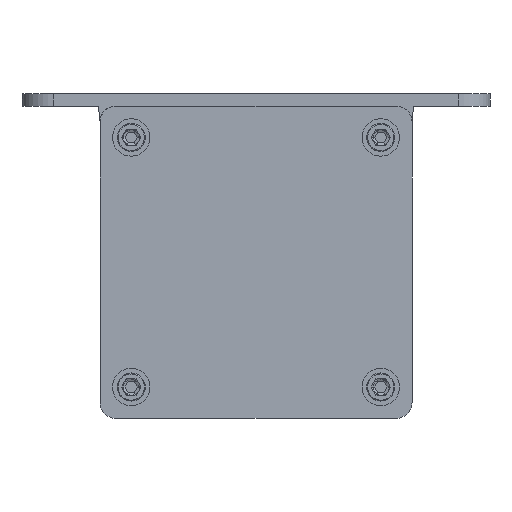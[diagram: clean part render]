
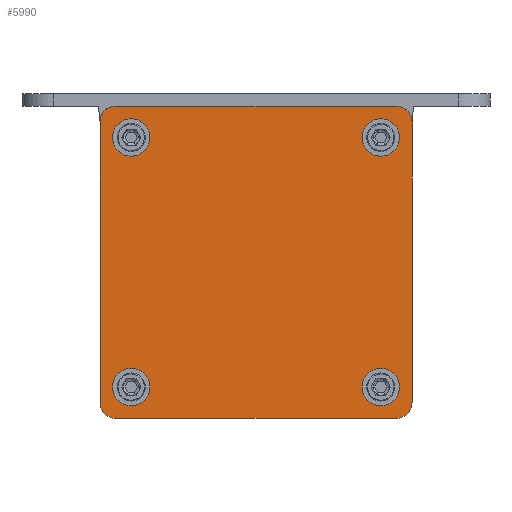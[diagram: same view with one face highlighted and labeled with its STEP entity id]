
A CAD part, front view. The second image highlights one B-rep face of the part: STEP entity #5990.
In plain terms, the highlighted planar face has unit normal (0, -1, 0).
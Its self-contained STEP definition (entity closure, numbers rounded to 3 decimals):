
#2125=CARTESIAN_POINT('',(-45.,-375.5,-45.));
#2126=DIRECTION('',(0.,-1.,0.));
#2127=DIRECTION('',(-1.,0.,0.));
#2128=AXIS2_PLACEMENT_3D('',#2125,#2126,#2127);
#2130=DIRECTION('',(0.,0.,-1.));
#2131=VECTOR('',#2130,90.);
#2132=CARTESIAN_POINT('',(-50.,-375.5,45.));
#2133=LINE('',#2132,#2131);
#2134=CARTESIAN_POINT('',(-45.,-375.5,45.));
#2135=DIRECTION('',(0.,-1.,0.));
#2136=DIRECTION('',(0.,0.,1.));
#2137=AXIS2_PLACEMENT_3D('',#2134,#2135,#2136);
#2139=DIRECTION('',(-1.,0.,0.));
#2140=VECTOR('',#2139,90.);
#2141=CARTESIAN_POINT('',(45.,-375.5,50.));
#2142=LINE('',#2141,#2140);
#2143=CARTESIAN_POINT('',(45.,-375.5,45.));
#2144=DIRECTION('',(0.,-1.,0.));
#2145=DIRECTION('',(1.,0.,0.));
#2146=AXIS2_PLACEMENT_3D('',#2143,#2144,#2145);
#2148=DIRECTION('',(0.,0.,1.));
#2149=VECTOR('',#2148,90.);
#2150=CARTESIAN_POINT('',(50.,-375.5,-45.));
#2151=LINE('',#2150,#2149);
#2152=CARTESIAN_POINT('',(45.,-375.5,-45.));
#2153=DIRECTION('',(0.,-1.,0.));
#2154=DIRECTION('',(0.,0.,-1.));
#2155=AXIS2_PLACEMENT_3D('',#2152,#2153,#2154);
#2157=DIRECTION('',(1.,0.,0.));
#2158=VECTOR('',#2157,90.);
#2159=CARTESIAN_POINT('',(-45.,-375.5,-50.));
#2160=LINE('',#2159,#2158);
#2161=CARTESIAN_POINT('',(-40.,-375.5,-40.));
#2162=DIRECTION('',(0.,-1.,0.));
#2163=DIRECTION('',(0.,0.,1.));
#2164=AXIS2_PLACEMENT_3D('',#2161,#2162,#2163);
#2166=CARTESIAN_POINT('',(-40.,-375.5,-40.));
#2167=DIRECTION('',(0.,-1.,0.));
#2168=DIRECTION('',(0.,0.,-1.));
#2169=AXIS2_PLACEMENT_3D('',#2166,#2167,#2168);
#2171=CARTESIAN_POINT('',(-40.,-375.5,40.));
#2172=DIRECTION('',(0.,-1.,0.));
#2173=DIRECTION('',(0.,0.,1.));
#2174=AXIS2_PLACEMENT_3D('',#2171,#2172,#2173);
#2176=CARTESIAN_POINT('',(-40.,-375.5,40.));
#2177=DIRECTION('',(0.,-1.,0.));
#2178=DIRECTION('',(0.,0.,-1.));
#2179=AXIS2_PLACEMENT_3D('',#2176,#2177,#2178);
#2181=CARTESIAN_POINT('',(40.,-375.5,-40.));
#2182=DIRECTION('',(0.,-1.,0.));
#2183=DIRECTION('',(0.,0.,1.));
#2184=AXIS2_PLACEMENT_3D('',#2181,#2182,#2183);
#2186=CARTESIAN_POINT('',(40.,-375.5,-40.));
#2187=DIRECTION('',(0.,-1.,0.));
#2188=DIRECTION('',(0.,0.,-1.));
#2189=AXIS2_PLACEMENT_3D('',#2186,#2187,#2188);
#2191=CARTESIAN_POINT('',(40.,-375.5,40.));
#2192=DIRECTION('',(0.,-1.,0.));
#2193=DIRECTION('',(0.,0.,1.));
#2194=AXIS2_PLACEMENT_3D('',#2191,#2192,#2193);
#2196=CARTESIAN_POINT('',(40.,-375.5,40.));
#2197=DIRECTION('',(0.,-1.,0.));
#2198=DIRECTION('',(0.,0.,-1.));
#2199=AXIS2_PLACEMENT_3D('',#2196,#2197,#2198);
#2509=CARTESIAN_POINT('',(-50.,-375.5,-45.));
#2510=CARTESIAN_POINT('',(-45.,-375.5,-50.));
#2511=VERTEX_POINT('',#2509);
#2512=VERTEX_POINT('',#2510);
#2513=CARTESIAN_POINT('',(45.,-375.5,-50.));
#2514=VERTEX_POINT('',#2513);
#2515=CARTESIAN_POINT('',(50.,-375.5,-45.));
#2516=VERTEX_POINT('',#2515);
#2517=CARTESIAN_POINT('',(50.,-375.5,45.));
#2518=VERTEX_POINT('',#2517);
#2519=CARTESIAN_POINT('',(45.,-375.5,50.));
#2520=VERTEX_POINT('',#2519);
#2521=CARTESIAN_POINT('',(-45.,-375.5,50.));
#2522=VERTEX_POINT('',#2521);
#2523=CARTESIAN_POINT('',(-50.,-375.5,45.));
#2524=VERTEX_POINT('',#2523);
#2537=CARTESIAN_POINT('',(-40.,-375.5,-36.75));
#2538=CARTESIAN_POINT('',(-40.,-375.5,-43.25));
#2539=VERTEX_POINT('',#2537);
#2540=VERTEX_POINT('',#2538);
#2541=CARTESIAN_POINT('',(-40.,-375.5,43.25));
#2542=CARTESIAN_POINT('',(-40.,-375.5,36.75));
#2543=VERTEX_POINT('',#2541);
#2544=VERTEX_POINT('',#2542);
#2545=CARTESIAN_POINT('',(40.,-375.5,-36.75));
#2546=CARTESIAN_POINT('',(40.,-375.5,-43.25));
#2547=VERTEX_POINT('',#2545);
#2548=VERTEX_POINT('',#2546);
#2549=CARTESIAN_POINT('',(40.,-375.5,43.25));
#2550=CARTESIAN_POINT('',(40.,-375.5,36.75));
#2551=VERTEX_POINT('',#2549);
#2552=VERTEX_POINT('',#2550);
#5945=CARTESIAN_POINT('',(0.,-375.5,0.));
#5946=DIRECTION('',(0.,-1.,0.));
#5947=DIRECTION('',(0.,0.,1.));
#5948=AXIS2_PLACEMENT_3D('',#5945,#5946,#5947);
#5949=PLANE('',#5948);
#5951=ORIENTED_EDGE('',*,*,#5950,.F.);
#5953=ORIENTED_EDGE('',*,*,#5952,.F.);
#5955=ORIENTED_EDGE('',*,*,#5954,.F.);
#5957=ORIENTED_EDGE('',*,*,#5956,.F.);
#5959=ORIENTED_EDGE('',*,*,#5958,.F.);
#5961=ORIENTED_EDGE('',*,*,#5960,.F.);
#5963=ORIENTED_EDGE('',*,*,#5962,.F.);
#5965=ORIENTED_EDGE('',*,*,#5964,.F.);
#5966=EDGE_LOOP('',(#5951,#5953,#5955,#5957,#5959,#5961,#5963,#5965));
#5967=FACE_OUTER_BOUND('',#5966,.F.);
#5968=ORIENTED_EDGE('',*,*,#5925,.T.);
#5969=ORIENTED_EDGE('',*,*,#5939,.T.);
#5970=EDGE_LOOP('',(#5968,#5969));
#5971=FACE_BOUND('',#5970,.F.);
#5973=ORIENTED_EDGE('',*,*,#5972,.T.);
#5975=ORIENTED_EDGE('',*,*,#5974,.T.);
#5976=EDGE_LOOP('',(#5973,#5975));
#5977=FACE_BOUND('',#5976,.F.);
#5979=ORIENTED_EDGE('',*,*,#5978,.T.);
#5981=ORIENTED_EDGE('',*,*,#5980,.T.);
#5982=EDGE_LOOP('',(#5979,#5981));
#5983=FACE_BOUND('',#5982,.F.);
#5985=ORIENTED_EDGE('',*,*,#5984,.T.);
#5987=ORIENTED_EDGE('',*,*,#5986,.T.);
#5988=EDGE_LOOP('',(#5985,#5987));
#5989=FACE_BOUND('',#5988,.F.);
#5990=ADVANCED_FACE('',(#5967,#5971,#5977,#5983,#5989),#5949,.T.);
#2129=CIRCLE('',#2128,5.);
#2138=CIRCLE('',#2137,5.);
#2147=CIRCLE('',#2146,5.);
#2156=CIRCLE('',#2155,5.);
#2165=CIRCLE('',#2164,3.25);
#2170=CIRCLE('',#2169,3.25);
#2175=CIRCLE('',#2174,3.25);
#2180=CIRCLE('',#2179,3.25);
#2185=CIRCLE('',#2184,3.25);
#2190=CIRCLE('',#2189,3.25);
#2195=CIRCLE('',#2194,3.25);
#2200=CIRCLE('',#2199,3.25);
#5925=EDGE_CURVE('',#2539,#2540,#2165,.T.);
#5939=EDGE_CURVE('',#2540,#2539,#2170,.T.);
#5950=EDGE_CURVE('',#2511,#2512,#2129,.T.);
#5952=EDGE_CURVE('',#2524,#2511,#2133,.T.);
#5954=EDGE_CURVE('',#2522,#2524,#2138,.T.);
#5956=EDGE_CURVE('',#2520,#2522,#2142,.T.);
#5958=EDGE_CURVE('',#2518,#2520,#2147,.T.);
#5960=EDGE_CURVE('',#2516,#2518,#2151,.T.);
#5962=EDGE_CURVE('',#2514,#2516,#2156,.T.);
#5964=EDGE_CURVE('',#2512,#2514,#2160,.T.);
#5972=EDGE_CURVE('',#2543,#2544,#2175,.T.);
#5974=EDGE_CURVE('',#2544,#2543,#2180,.T.);
#5978=EDGE_CURVE('',#2547,#2548,#2185,.T.);
#5980=EDGE_CURVE('',#2548,#2547,#2190,.T.);
#5984=EDGE_CURVE('',#2551,#2552,#2195,.T.);
#5986=EDGE_CURVE('',#2552,#2551,#2200,.T.);
